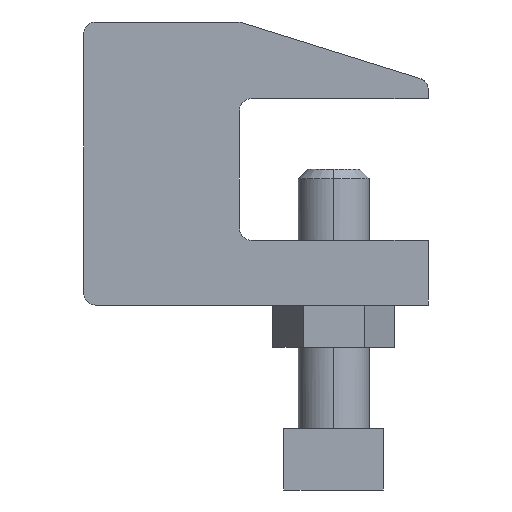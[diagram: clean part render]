
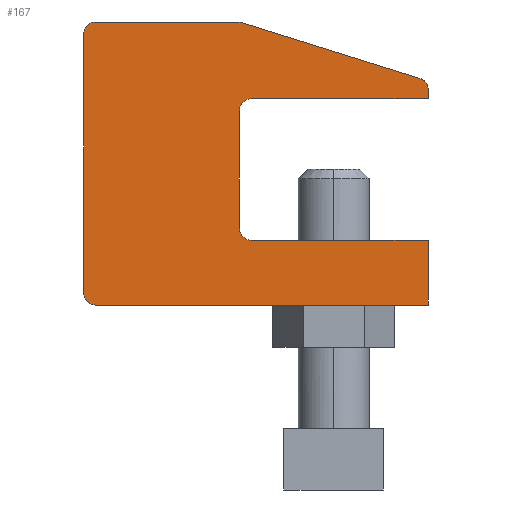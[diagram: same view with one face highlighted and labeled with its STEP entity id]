
A CAD part, front view. The second image highlights one B-rep face of the part: STEP entity #167.
In plain terms, the highlighted planar face has unit normal (0, -1, 0).
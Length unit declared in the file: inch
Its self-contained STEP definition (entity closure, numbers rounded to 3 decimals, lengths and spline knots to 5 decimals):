
#167=ADVANCED_FACE('',(#335),#336,.T.);
#335=FACE_OUTER_BOUND('',#837,.T.);
#336=PLANE('',#838);
#837=EDGE_LOOP('',(#1260,#1261,#1262,#1263,#1264,#1265,#1266,#1267,#1268,#1269,#1270,#1271,#1272,#1273,#1274));
#838=AXIS2_PLACEMENT_3D('',#1275,#1276,#1277);
#1260=ORIENTED_EDGE('',*,*,#1566,.F.);
#1261=ORIENTED_EDGE('',*,*,#1423,.F.);
#1262=ORIENTED_EDGE('',*,*,#1503,.F.);
#1263=ORIENTED_EDGE('',*,*,#1433,.F.);
#1264=ORIENTED_EDGE('',*,*,#1467,.F.);
#1265=ORIENTED_EDGE('',*,*,#1499,.F.);
#1266=ORIENTED_EDGE('',*,*,#1552,.F.);
#1267=ORIENTED_EDGE('',*,*,#1457,.F.);
#1268=ORIENTED_EDGE('',*,*,#1554,.F.);
#1269=ORIENTED_EDGE('',*,*,#1418,.F.);
#1270=ORIENTED_EDGE('',*,*,#1543,.F.);
#1271=ORIENTED_EDGE('',*,*,#1567,.F.);
#1272=ORIENTED_EDGE('',*,*,#1546,.F.);
#1273=ORIENTED_EDGE('',*,*,#1480,.F.);
#1274=ORIENTED_EDGE('',*,*,#1568,.F.);
#1275=CARTESIAN_POINT('',(0.83204,0.0,0.704));
#1276=DIRECTION('',(0.0,-1.0,0.0));
#1277=DIRECTION('',(1.0,0.0,0.0));
#1418=EDGE_CURVE('',#1604,#1605,#1606,.T.);
#1423=EDGE_CURVE('',#1613,#1614,#1615,.T.);
#1433=EDGE_CURVE('',#1631,#1632,#1633,.T.);
#1457=EDGE_CURVE('',#1673,#1674,#1675,.T.);
#1467=EDGE_CURVE('',#1691,#1631,#1692,.T.);
#1480=EDGE_CURVE('',#1712,#1713,#1714,.T.);
#1499=EDGE_CURVE('',#1742,#1691,#1743,.T.);
#1503=EDGE_CURVE('',#1632,#1613,#1748,.T.);
#1543=EDGE_CURVE('',#1806,#1604,#1807,.T.);
#1546=EDGE_CURVE('',#1713,#1810,#1811,.T.);
#1552=EDGE_CURVE('',#1674,#1742,#1818,.T.);
#1554=EDGE_CURVE('',#1605,#1673,#1820,.T.);
#1566=EDGE_CURVE('',#1614,#1835,#1836,.T.);
#1567=EDGE_CURVE('',#1810,#1806,#1837,.T.);
#1568=EDGE_CURVE('',#1835,#1712,#1838,.T.);
#1604=VERTEX_POINT('',#1876);
#1605=VERTEX_POINT('',#1877);
#1606=LINE('',#1878,#1879);
#1613=VERTEX_POINT('',#1889);
#1614=VERTEX_POINT('',#1890);
#1615=LINE('',#1891,#1892);
#1631=VERTEX_POINT('',#1919);
#1632=VERTEX_POINT('',#1920);
#1633=B_SPLINE_CURVE_WITH_KNOTS('',3,(#1921,#1922,#1923,#1924),.UNSPECIFIED.,.F.,.F.,(4,4),(-1.0,-0.0),.UNSPECIFIED.);
#1673=VERTEX_POINT('',#2006);
#1674=VERTEX_POINT('',#2007);
#1675=LINE('',#2008,#2009);
#1691=VERTEX_POINT('',#2036);
#1692=LINE('',#2037,#2038);
#1712=VERTEX_POINT('',#2074);
#1713=VERTEX_POINT('',#2075);
#1714=LINE('',#2076,#2077);
#1742=VERTEX_POINT('',#2125);
#1743=B_SPLINE_CURVE_WITH_KNOTS('',3,(#2126,#2127,#2128,#2129),.UNSPECIFIED.,.F.,.F.,(4,4),(-1.0,-0.0),.UNSPECIFIED.);
#1748=LINE('',#2138,#2139);
#1806=VERTEX_POINT('',#2267);
#1807=CIRCLE('',#2268,0.06252);
#1810=VERTEX_POINT('',#2272);
#1811=B_SPLINE_CURVE_WITH_KNOTS('',3,(#2273,#2274,#2275,#2276),.UNSPECIFIED.,.F.,.F.,(4,4),(-1.0,-0.0),.UNSPECIFIED.);
#1818=LINE('',#2288,#2289);
#1820=B_SPLINE_CURVE_WITH_KNOTS('',3,(#2291,#2292,#2293,#2294),.UNSPECIFIED.,.F.,.F.,(4,4),(-1.0,-0.0),.UNSPECIFIED.);
#1835=VERTEX_POINT('',#2346);
#1836=LINE('',#2347,#2348);
#1837=LINE('',#2349,#2350);
#1838=B_SPLINE_CURVE_WITH_KNOTS('',3,(#2351,#2352,#2353,#2354),.UNSPECIFIED.,.F.,.F.,(4,4),(-1.0,-0.0),.UNSPECIFIED.);
#1876=CARTESIAN_POINT('',(0.77136,0.0,1.49716));
#1877=CARTESIAN_POINT('',(1.7184,0.0,1.20121));
#1878=CARTESIAN_POINT('',(1.7184,0.0,1.20121));
#1879=VECTOR('',#2436,1.0);
#1889=CARTESIAN_POINT('',(1.76226,0.0,0.34375));
#1890=CARTESIAN_POINT('',(1.76226,0.0,0.0));
#1891=CARTESIAN_POINT('',(1.76226,0.0,0.0));
#1892=VECTOR('',#2440,1.0);
#1919=CARTESIAN_POINT('',(0.76226,0.0,0.40625));
#1920=CARTESIAN_POINT('',(0.82476,0.0,0.34375));
#1921=CARTESIAN_POINT('',(0.76226,0.0,0.40625));
#1922=CARTESIAN_POINT('',(0.76226,0.0,0.37173));
#1923=CARTESIAN_POINT('',(0.79024,0.0,0.34375));
#1924=CARTESIAN_POINT('',(0.82476,0.0,0.34375));
#2006=CARTESIAN_POINT('',(1.76226,0.0,1.14155));
#2007=CARTESIAN_POINT('',(1.76226,0.0,1.09375));
#2008=CARTESIAN_POINT('',(1.76226,0.0,1.09375));
#2009=VECTOR('',#2460,1.0);
#2036=CARTESIAN_POINT('',(0.76226,0.0,1.03125));
#2037=CARTESIAN_POINT('',(0.76226,0.0,0.40625));
#2038=VECTOR('',#2466,1.0);
#2074=CARTESIAN_POINT('',(-0.0625,0.0,0.0625));
#2075=CARTESIAN_POINT('',(-0.0625,0.0,1.4375));
#2076=CARTESIAN_POINT('',(-0.0625,0.0,1.4375));
#2077=VECTOR('',#2474,1.0);
#2125=CARTESIAN_POINT('',(0.82476,0.0,1.09375));
#2126=CARTESIAN_POINT('',(0.82476,0.0,1.09375));
#2127=CARTESIAN_POINT('',(0.79024,0.0,1.09375));
#2128=CARTESIAN_POINT('',(0.76226,0.0,1.06577));
#2129=CARTESIAN_POINT('',(0.76226,0.0,1.03125));
#2138=CARTESIAN_POINT('',(1.76226,0.0,0.34375));
#2139=VECTOR('',#2484,1.0);
#2267=CARTESIAN_POINT('',(0.75272,0.0,1.5));
#2268=AXIS2_PLACEMENT_3D('',#2506,#2507,#2508);
#2272=CARTESIAN_POINT('',(0.0,0.0,1.5));
#2273=CARTESIAN_POINT('',(-0.0625,0.0,1.4375));
#2274=CARTESIAN_POINT('',(-0.0625,0.0,1.47202));
#2275=CARTESIAN_POINT('',(-0.03452,0.0,1.5));
#2276=CARTESIAN_POINT('',(0.0,0.0,1.5));
#2288=CARTESIAN_POINT('',(0.82476,0.0,1.09375));
#2289=VECTOR('',#2512,1.0);
#2291=CARTESIAN_POINT('',(1.7184,0.0,1.20121));
#2292=CARTESIAN_POINT('',(1.74449,0.0,1.19305));
#2293=CARTESIAN_POINT('',(1.76226,0.0,1.16889));
#2294=CARTESIAN_POINT('',(1.76226,0.0,1.14155));
#2346=CARTESIAN_POINT('',(0.0,0.0,0.0));
#2347=CARTESIAN_POINT('',(0.0,0.0,0.0));
#2348=VECTOR('',#2515,1.0);
#2349=CARTESIAN_POINT('',(0.75272,0.0,1.5));
#2350=VECTOR('',#2516,1.0);
#2351=CARTESIAN_POINT('',(0.0,0.0,0.0));
#2352=CARTESIAN_POINT('',(-0.03452,0.0,0.0));
#2353=CARTESIAN_POINT('',(-0.0625,0.0,0.02798));
#2354=CARTESIAN_POINT('',(-0.0625,0.0,0.0625));
#2436=DIRECTION('',(0.954,0.0,-0.298));
#2440=DIRECTION('',(-0.0,0.0,-1.0));
#2460=DIRECTION('',(-0.0,0.0,-1.0));
#2466=DIRECTION('',(-0.0,0.0,-1.0));
#2474=DIRECTION('',(0.0,0.0,1.0));
#2484=DIRECTION('',(1.0,0.0,0.0));
#2506=CARTESIAN_POINT('',(0.75273,0.0,1.43748));
#2507=DIRECTION('',(-0.0,1.0,0.0));
#2508=DIRECTION('',(0.298,0.0,0.955));
#2512=DIRECTION('',(-1.0,0.0,-0.0));
#2515=DIRECTION('',(-1.0,0.0,-0.0));
#2516=DIRECTION('',(1.0,0.0,0.0));
